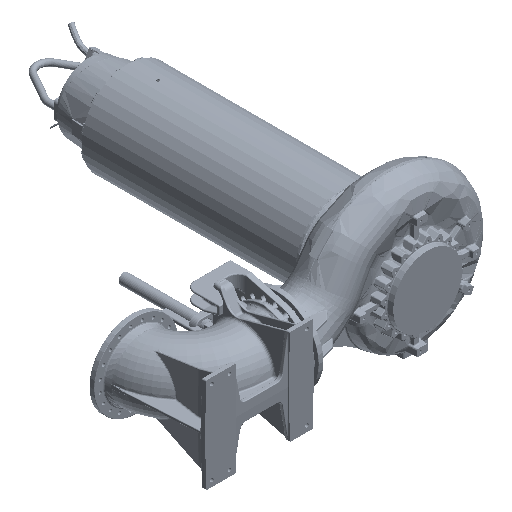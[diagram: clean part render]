
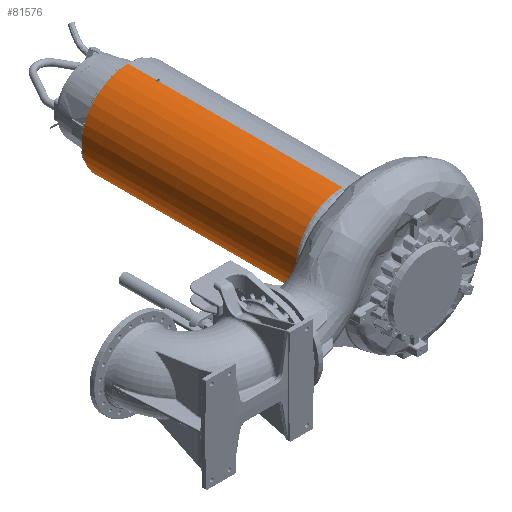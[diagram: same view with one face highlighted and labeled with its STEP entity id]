
A CAD part, isometric view. The second image highlights one B-rep face of the part: STEP entity #81576.
In plain terms, the highlighted cylindrical face has radius 391.5 mm (diameter 783 mm), a partial arc.
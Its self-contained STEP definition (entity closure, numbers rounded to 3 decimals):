
#4583 = AXIS2_PLACEMENT_3D ( 'NONE', #298781, #399806, #123171 ) ;
#10704 = AXIS2_PLACEMENT_3D ( 'NONE', #158152, #374007, #189189 ) ;
#11659 = VERTEX_POINT ( 'NONE', #85602 ) ;
#14043 = CARTESIAN_POINT ( 'NONE',  ( -3.167, 2260.359, -391.5 ) ) ;
#14058 = CARTESIAN_POINT ( 'NONE',  ( 0., 2280.47, 391.5 ) ) ;
#17680 = CARTESIAN_POINT ( 'NONE',  ( 0., 2280.47, 391.5 ) ) ;
#17980 = DIRECTION ( 'NONE',  ( 0., 1., 0. ) ) ;
#27932 = CARTESIAN_POINT ( 'NONE',  ( 0., 2659.849, 391.5 ) ) ;
#31659 = VECTOR ( 'NONE', #323185, 1000. ) ;
#38060 = CARTESIAN_POINT ( 'NONE',  ( 0., 2519.5, -391.5 ) ) ;
#38866 = CARTESIAN_POINT ( 'NONE',  ( -9.5, 2274.985, -391.385 ) ) ;
#39865 = EDGE_CURVE ( 'NONE', #334214, #128327, #105217, .T. ) ;
#49581 = VERTEX_POINT ( 'NONE', #60189 ) ;
#54246 = ORIENTED_EDGE ( 'NONE', *, *, #343355, .T. ) ;
#57327 = EDGE_CURVE ( 'NONE', #277696, #166680, #80219, .T. ) ;
#59299 = LINE ( 'NONE', #27932, #305754 ) ;
#59664 = EDGE_CURVE ( 'NONE', #166680, #288601, #308686, .T. ) ;
#60189 = CARTESIAN_POINT ( 'NONE',  ( 0., 715.5, -391.5 ) ) ;
#80219 = LINE ( 'NONE', #354222, #31659 ) ;
#81576 = ADVANCED_FACE ( 'NONE', ( #204439 ), #93273, .T. ) ;
#84474 = LINE ( 'NONE', #112412, #166718 ) ;
#84953 = ORIENTED_EDGE ( 'NONE', *, *, #153826, .T. ) ;
#85602 = CARTESIAN_POINT ( 'NONE',  ( 0., 2258.53, 391.5 ) ) ;
#89657 = CARTESIAN_POINT ( 'NONE',  ( 0., 2258.53, -391.5 ) ) ;
#89954 = VERTEX_POINT ( 'NONE', #162546 ) ;
#93273 = CYLINDRICAL_SURFACE ( 'NONE', #4583, 391.5 ) ;
#93859 = VECTOR ( 'NONE', #338453, 1000. ) ;
#100507 = ORIENTED_EDGE ( 'NONE', *, *, #159089, .F. ) ;
#101201 = EDGE_CURVE ( 'NONE', #288601, #334214, #387078, .T. ) ;
#105217 = CIRCLE ( 'NONE', #10704, 391.5 ) ;
#107423 = CARTESIAN_POINT ( 'NONE',  ( -9.5, 2264.015, -391.385 ) ) ;
#110088 =( BOUNDED_CURVE ( )  B_SPLINE_CURVE ( 3, ( #230322, #14043, #292326, #107423 ),
 .UNSPECIFIED., .F., .F. ) 
 B_SPLINE_CURVE_WITH_KNOTS ( ( 4, 4 ),
 ( 4.712, 4.737 ),
 .UNSPECIFIED. ) 
 CURVE ( )  GEOMETRIC_REPRESENTATION_ITEM ( )  RATIONAL_B_SPLINE_CURVE ( ( 1., 1., 1., 1. ) ) 
 REPRESENTATION_ITEM ( '' )  );
#111443 = ORIENTED_EDGE ( 'NONE', *, *, #57327, .F. ) ;
#112412 = CARTESIAN_POINT ( 'NONE',  ( 0., 2659.849, -391.5 ) ) ;
#123171 = DIRECTION ( 'NONE',  ( 0., 0., -1. ) ) ;
#124055 = CARTESIAN_POINT ( 'NONE',  ( -6.334, 2276.813, -391.462 ) ) ;
#124429 = CARTESIAN_POINT ( 'NONE',  ( -9.5, 2264.015, -391.385 ) ) ;
#127717 = ORIENTED_EDGE ( 'NONE', *, *, #39865, .F. ) ;
#128327 = VERTEX_POINT ( 'NONE', #218051 ) ;
#141031 = CARTESIAN_POINT ( 'NONE',  ( 0., 2659.849, -391.5 ) ) ;
#146121 = DIRECTION ( 'NONE',  ( 0., 1., 0. ) ) ;
#147154 =( BOUNDED_CURVE ( )  B_SPLINE_CURVE ( 3, ( #171862, #294629, #202887, #17680 ),
 .UNSPECIFIED., .F., .F. ) 
 B_SPLINE_CURVE_WITH_KNOTS ( ( 4, 4 ),
 ( 4.688, 4.712 ),
 .UNSPECIFIED. ) 
 CURVE ( )  GEOMETRIC_REPRESENTATION_ITEM ( )  RATIONAL_B_SPLINE_CURVE ( ( 1., 1., 1., 1. ) ) 
 REPRESENTATION_ITEM ( '' )  );
#147801 = VERTEX_POINT ( 'NONE', #89657 ) ;
#150668 = DIRECTION ( 'NONE',  ( 0., 1., 0. ) ) ;
#153826 = EDGE_CURVE ( 'NONE', #49581, #236313, #327374, .T. ) ;
#155180 = CARTESIAN_POINT ( 'NONE',  ( -9.5, 2274.985, -391.385 ) ) ;
#155938 = VERTEX_POINT ( 'NONE', #14058 ) ;
#158152 = CARTESIAN_POINT ( 'NONE',  ( 0., 2519.5, 0. ) ) ;
#159089 = EDGE_CURVE ( 'NONE', #49581, #147801, #84474, .T. ) ;
#159751 = EDGE_CURVE ( 'NONE', #155938, #128327, #59299, .T. ) ;
#161105 = ORIENTED_EDGE ( 'NONE', *, *, #159751, .T. ) ;
#162546 = CARTESIAN_POINT ( 'NONE',  ( -9.5, 2274.985, 391.385 ) ) ;
#164178 = LINE ( 'NONE', #293597, #173859 ) ;
#166610 = ORIENTED_EDGE ( 'NONE', *, *, #101201, .F. ) ;
#166680 = VERTEX_POINT ( 'NONE', #38866 ) ;
#166718 = VECTOR ( 'NONE', #146121, 1000. ) ;
#171862 = CARTESIAN_POINT ( 'NONE',  ( -9.5, 2274.985, 391.385 ) ) ;
#173859 = VECTOR ( 'NONE', #232915, 1000. ) ;
#179414 = ORIENTED_EDGE ( 'NONE', *, *, #327462, .T. ) ;
#180943 = CARTESIAN_POINT ( 'NONE',  ( -3.167, 2260.359, 391.5 ) ) ;
#186182 = EDGE_CURVE ( 'NONE', #147801, #277696, #110088, .T. ) ;
#186403 = ORIENTED_EDGE ( 'NONE', *, *, #264869, .T. ) ;
#188268 =( BOUNDED_CURVE ( )  B_SPLINE_CURVE ( 3, ( #303787, #180943, #396755, #212005 ),
 .UNSPECIFIED., .F., .F. ) 
 B_SPLINE_CURVE_WITH_KNOTS ( ( 4, 4 ),
 ( 4.712, 4.737 ),
 .UNSPECIFIED. ) 
 CURVE ( )  GEOMETRIC_REPRESENTATION_ITEM ( )  RATIONAL_B_SPLINE_CURVE ( ( 1., 1., 1., 1. ) ) 
 REPRESENTATION_ITEM ( '' )  );
#189189 = DIRECTION ( 'NONE',  ( 0., 0., -1. ) ) ;
#202887 = CARTESIAN_POINT ( 'NONE',  ( -3.167, 2278.641, 391.5 ) ) ;
#204439 = FACE_OUTER_BOUND ( 'NONE', #335320, .T. ) ;
#212005 = CARTESIAN_POINT ( 'NONE',  ( -9.5, 2264.015, 391.385 ) ) ;
#217030 = CARTESIAN_POINT ( 'NONE',  ( 0., 2659.849, 391.5 ) ) ;
#218051 = CARTESIAN_POINT ( 'NONE',  ( 0., 2519.5, 391.5 ) ) ;
#222844 = ORIENTED_EDGE ( 'NONE', *, *, #356372, .T. ) ;
#224788 = AXIS2_PLACEMENT_3D ( 'NONE', #335552, #150668, #366544 ) ;
#229927 = VERTEX_POINT ( 'NONE', #266703 ) ;
#230322 = CARTESIAN_POINT ( 'NONE',  ( 0., 2258.53, -391.5 ) ) ;
#232915 = DIRECTION ( 'NONE',  ( 0., 1., 0. ) ) ;
#236313 = VERTEX_POINT ( 'NONE', #389633 ) ;
#246777 = DIRECTION ( 'NONE',  ( 0., 1., 0. ) ) ;
#258113 = LINE ( 'NONE', #217030, #93859 ) ;
#264869 = EDGE_CURVE ( 'NONE', #11659, #229927, #188268, .T. ) ;
#266703 = CARTESIAN_POINT ( 'NONE',  ( -9.5, 2264.015, 391.385 ) ) ;
#272387 = ORIENTED_EDGE ( 'NONE', *, *, #59664, .F. ) ;
#277696 = VERTEX_POINT ( 'NONE', #124429 ) ;
#288601 = VERTEX_POINT ( 'NONE', #335807 ) ;
#292326 = CARTESIAN_POINT ( 'NONE',  ( -6.334, 2262.187, -391.462 ) ) ;
#293597 = CARTESIAN_POINT ( 'NONE',  ( -9.5, 2659.849, 391.385 ) ) ;
#294629 = CARTESIAN_POINT ( 'NONE',  ( -6.334, 2276.813, 391.462 ) ) ;
#298781 = CARTESIAN_POINT ( 'NONE',  ( 0., 2659.849, 0. ) ) ;
#303787 = CARTESIAN_POINT ( 'NONE',  ( 0., 2258.53, 391.5 ) ) ;
#305754 = VECTOR ( 'NONE', #246777, 1000. ) ;
#308686 =( BOUNDED_CURVE ( )  B_SPLINE_CURVE ( 3, ( #155180, #124055, #399394, #371044 ),
 .UNSPECIFIED., .F., .F. ) 
 B_SPLINE_CURVE_WITH_KNOTS ( ( 4, 4 ),
 ( 4.688, 4.712 ),
 .UNSPECIFIED. ) 
 CURVE ( )  GEOMETRIC_REPRESENTATION_ITEM ( )  RATIONAL_B_SPLINE_CURVE ( ( 1., 1., 1., 1. ) ) 
 REPRESENTATION_ITEM ( '' )  );
#323185 = DIRECTION ( 'NONE',  ( 0., 1., 0. ) ) ;
#327374 = CIRCLE ( 'NONE', #224788, 391.5 ) ;
#327462 = EDGE_CURVE ( 'NONE', #229927, #89954, #164178, .T. ) ;
#334214 = VERTEX_POINT ( 'NONE', #38060 ) ;
#335320 = EDGE_LOOP ( 'NONE', ( #84953, #54246, #186403, #179414, #222844, #161105, #127717, #166610, #272387, #111443, #343002, #100507 ) ) ;
#335552 = CARTESIAN_POINT ( 'NONE',  ( 0., 715.5, 0. ) ) ;
#335807 = CARTESIAN_POINT ( 'NONE',  ( 0., 2280.47, -391.5 ) ) ;
#338453 = DIRECTION ( 'NONE',  ( 0., 1., 0. ) ) ;
#343002 = ORIENTED_EDGE ( 'NONE', *, *, #186182, .F. ) ;
#343355 = EDGE_CURVE ( 'NONE', #236313, #11659, #258113, .T. ) ;
#354222 = CARTESIAN_POINT ( 'NONE',  ( -9.5, 2659.849, -391.385 ) ) ;
#356372 = EDGE_CURVE ( 'NONE', #89954, #155938, #147154, .T. ) ;
#366544 = DIRECTION ( 'NONE',  ( 0., 0., -1. ) ) ;
#371044 = CARTESIAN_POINT ( 'NONE',  ( 0., 2280.47, -391.5 ) ) ;
#374007 = DIRECTION ( 'NONE',  ( 0., 1., 0. ) ) ;
#377382 = VECTOR ( 'NONE', #17980, 1000. ) ;
#387078 = LINE ( 'NONE', #141031, #377382 ) ;
#389633 = CARTESIAN_POINT ( 'NONE',  ( 0., 715.5, 391.5 ) ) ;
#396755 = CARTESIAN_POINT ( 'NONE',  ( -6.334, 2262.187, 391.462 ) ) ;
#399394 = CARTESIAN_POINT ( 'NONE',  ( -3.167, 2278.641, -391.5 ) ) ;
#399806 = DIRECTION ( 'NONE',  ( 0., 1., 0. ) ) ;
